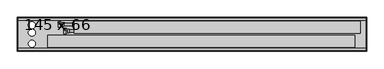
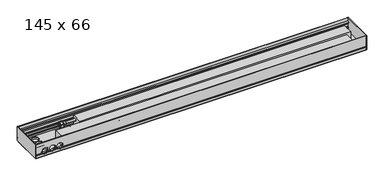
"""IFC4 building model written with IfcOpenShell, lengths in millimetres: proxy geometry, Mohlenhof_Внутрипольный конвектор_QSKM : 145 x 66."""

from ifc_helpers import new_model, si_unit, point, frame, frame_2d, origin, place, context, project, spatial, polyline, circle_curve, ellipse_curve, trimmed, segment, composite_curve, outline, extrude, source, transform, mapped, element, save
from ifc_brep_helpers import plane_surface, cylinder_surface, revolved_surface, advanced_brep


def proxy_145_x_66_164ab2c3(model_context):
    return source(origin(), model_context, "Body", "SolidModel", [
        extrude(outline(composite_curve([segment(trimmed(circle_curve(frame_2d((0.0, -223.5)), 4.5), [point((-4.5, -223.5))], [point((4.5, -223.5))], False, "CARTESIAN"), True, "CONTINUOUS"), segment(trimmed(circle_curve(frame_2d((0.0, -223.5)), 4.5), [point((4.5, -223.5))], [point((-4.5, -223.5))], False, "CARTESIAN"), True, "CONTINUOUS")], self_intersect=False)), frame((0.0, 0.0, -79.0), z_axis=(0.0, 0.0, 1.0), x_axis=(1.0, 0.0, 0.0)), (0.0, 0.0, 1.0), 7.0),
        extrude(outline(composite_curve([segment(trimmed(circle_curve(frame_2d((0.0, -223.5)), 4.0), [point((-4.0, -223.5))], [point((4.0, -223.5))], False, "CARTESIAN"), True, "CONTINUOUS"), segment(trimmed(circle_curve(frame_2d((0.0, -223.5)), 4.0), [point((4.0, -223.5))], [point((-4.0, -223.5))], False, "CARTESIAN"), True, "CONTINUOUS")], self_intersect=False)), frame((0.0, 0.0, -72.0), z_axis=(0.0, 0.0, 1.0), x_axis=(1.0, 0.0, 0.0)), (0.0, 0.0, 1.0), 1.5),
        extrude(outline(composite_curve([segment(trimmed(circle_curve(frame_2d((0.0, -121.5)), 4.5), [point((-4.5, -121.5))], [point((4.5, -121.5))], False, "CARTESIAN"), True, "CONTINUOUS"), segment(trimmed(circle_curve(frame_2d((0.0, -121.5)), 4.5), [point((4.5, -121.5))], [point((-4.5, -121.5))], False, "CARTESIAN"), True, "CONTINUOUS")], self_intersect=False)), frame((0.0, 0.0, -79.0), z_axis=(0.0, 0.0, 1.0), x_axis=(1.0, 0.0, 0.0)), (0.0, 0.0, 1.0), 7.0),
        extrude(outline(composite_curve([segment(trimmed(circle_curve(frame_2d((0.0, -121.5)), 4.0), [point((-4.0, -121.5))], [point((4.0, -121.5))], False, "CARTESIAN"), True, "CONTINUOUS"), segment(trimmed(circle_curve(frame_2d((0.0, -121.5)), 4.0), [point((4.0, -121.5))], [point((-4.0, -121.5))], False, "CARTESIAN"), True, "CONTINUOUS")], self_intersect=False)), frame((0.0, 0.0, -72.0), z_axis=(0.0, 0.0, 1.0), x_axis=(1.0, 0.0, 0.0)), (0.0, 0.0, 1.0), 1.5),
        advanced_brep(
        [(-540.0, -158.0, -47.5), (-540.0, -146.0, -47.5), (-540.0, -170.0, -47.5), (-527.5, -165.5, -47.5), (-527.5, -150.5, -47.5), (-527.5, -158.0, -47.5), (-535.0, -165.5, -47.5), (-535.0, -150.5, -47.5)],
        [
            (0, 1),
            (1, 2, circle_curve(frame((-540.0, -158.0, -47.5), z_axis=(-1.0, 0.0, 0.0), x_axis=(0.0, 1.0, 0.0)), 12.0)),
            (2, 0),
            (2, 1, circle_curve(frame((-540.0, -158.0, -47.5), z_axis=(-1.0, 0.0, 0.0), x_axis=(0.0, 1.0, 0.0)), 12.0)),
            (3, 4, circle_curve(frame((-527.5, -158.0, -47.5), z_axis=(1.0, 0.0, 0.0), x_axis=(0.0, 1.0, 0.0)), 7.5)),
            (4, 5),
            (5, 3),
            (4, 3, circle_curve(frame((-527.5, -158.0, -47.5), z_axis=(1.0, 0.0, 0.0), x_axis=(0.0, 1.0, 0.0)), 7.5)),
            (6, 7, circle_curve(frame((-535.0, -158.0, -47.5), z_axis=(1.0, 0.0, 0.0), x_axis=(0.0, 1.0, 0.0)), 7.5)),
            (7, 4),
            (3, 6),
            (7, 6, circle_curve(frame((-535.0, -158.0, -47.5), z_axis=(1.0, 0.0, 0.0), x_axis=(0.0, 1.0, 0.0)), 7.5)),
            (1, 7),
            (6, 2),
        ],
        [
            plane_surface(frame((-540.0, -158.0, -47.5), z_axis=(-1.0, 0.0, 0.0), x_axis=(0.0, 1.0, 0.0))),
            plane_surface(frame((-527.5, -158.0, -47.5), z_axis=(1.0, 0.0, 0.0), x_axis=(0.0, 1.0, 0.0))),
            cylinder_surface(frame((-540.0, -158.0, -47.5), z_axis=(-1.0, 0.0, 0.0), x_axis=(0.0, 1.0, 0.0)), 7.5),
            revolved_surface(polyline([(-535.0, -150.5, -47.5), (-540.0, -146.0, -47.5)]), (-540.0, -158.0, -47.5), (-1.0, 0.0, 0.0)),
        ],
        [
            (0, [[1, 2, 3]]),
            (0, [[-3, 4, -1]]),
            (1, [[5, 6, 7]]),
            (1, [[8, -7, -6]]),
            (2, [[9, 10, -5, 11]]),
            (2, [[12, -11, -8, -10]]),
            (3, [[-2, 13, -9, 14]]),
            (3, [[-4, -14, -12, -13]]),
        ],
    ),
        extrude(outline(polyline([(-158.0, -33.6435935), (-146.0, -40.5717968), (-146.0, -54.4282032), (-158.0, -61.3564065), (-170.0, -54.4282032), (-170.0, -40.5717968), (-158.0, -33.6435935)]), holes=[composite_curve([segment(trimmed(circle_curve(frame_2d((-158.0, -47.5)), 8.5), [point((-149.5, -47.5))], [point((-166.5, -47.5))], True, "CARTESIAN"), True, "CONTINUOUS"), segment(trimmed(circle_curve(frame_2d((-158.0, -47.5)), 8.5), [point((-166.5, -47.5))], [point((-149.5, -47.5))], True, "CARTESIAN"), True, "CONTINUOUS")], self_intersect=False)]), frame((-551.0, 0.0, 0.0), z_axis=(1.0, 0.0, 0.0), x_axis=(0.0, 1.0, 0.0)), (0.0, 0.0, 1.0), 11.0),
        advanced_brep(
        [(-564.0, -130.0, -34.5), (-564.0, -118.0, -34.5), (-564.0, -142.0, -34.5), (-551.5, -137.5, -34.5), (-551.5, -122.5, -34.5), (-551.5, -130.0, -34.5), (-559.0, -137.5, -34.5), (-559.0, -122.5, -34.5)],
        [
            (0, 1),
            (1, 2, circle_curve(frame((-564.0, -130.0, -34.5), z_axis=(-1.0, 0.0, 0.0), x_axis=(0.0, 1.0, 0.0)), 12.0)),
            (2, 0),
            (2, 1, circle_curve(frame((-564.0, -130.0, -34.5), z_axis=(-1.0, 0.0, 0.0), x_axis=(0.0, 1.0, 0.0)), 12.0)),
            (3, 4, circle_curve(frame((-551.5, -130.0, -34.5), z_axis=(1.0, 0.0, 0.0), x_axis=(0.0, 1.0, 0.0)), 7.5)),
            (4, 5),
            (5, 3),
            (4, 3, circle_curve(frame((-551.5, -130.0, -34.5), z_axis=(1.0, 0.0, 0.0), x_axis=(0.0, 1.0, 0.0)), 7.5)),
            (6, 7, circle_curve(frame((-559.0, -130.0, -34.5), z_axis=(1.0, 0.0, 0.0), x_axis=(0.0, 1.0, 0.0)), 7.5)),
            (7, 4),
            (3, 6),
            (7, 6, circle_curve(frame((-559.0, -130.0, -34.5), z_axis=(1.0, 0.0, 0.0), x_axis=(0.0, 1.0, 0.0)), 7.5)),
            (1, 7),
            (6, 2),
        ],
        [
            plane_surface(frame((-564.0, -130.0, -34.5), z_axis=(-1.0, 0.0, 0.0), x_axis=(0.0, 1.0, 0.0))),
            plane_surface(frame((-551.5, -130.0, -34.5), z_axis=(1.0, 0.0, 0.0), x_axis=(0.0, 1.0, 0.0))),
            cylinder_surface(frame((-564.0, -130.0, -34.5), z_axis=(-1.0, 0.0, 0.0), x_axis=(0.0, 1.0, 0.0)), 7.5),
            revolved_surface(polyline([(-559.0, -122.5, -34.5), (-564.0, -118.0, -34.5)]), (-564.0, -130.0, -34.5), (-1.0, 0.0, 0.0)),
        ],
        [
            (0, [[1, 2, 3]]),
            (0, [[-3, 4, -1]]),
            (1, [[5, 6, 7]]),
            (1, [[8, -7, -6]]),
            (2, [[9, 10, -5, 11]]),
            (2, [[12, -11, -8, -10]]),
            (3, [[-2, 13, -9, 14]]),
            (3, [[-4, -14, -12, -13]]),
        ],
    ),
        extrude(outline(polyline([(-130.0, -20.6435935), (-118.0, -27.5717968), (-118.0, -41.4282032), (-130.0, -48.3564065), (-142.0, -41.4282032), (-142.0, -27.5717968), (-130.0, -20.6435935)]), holes=[composite_curve([segment(trimmed(circle_curve(frame_2d((-130.0, -34.5)), 8.5), [point((-121.5, -34.5))], [point((-138.5, -34.5))], True, "CARTESIAN"), True, "CONTINUOUS"), segment(trimmed(circle_curve(frame_2d((-130.0, -34.5)), 8.5), [point((-138.5, -34.5))], [point((-121.5, -34.5))], True, "CARTESIAN"), True, "CONTINUOUS")], self_intersect=False)]), frame((-575.0, 0.0, 0.0), z_axis=(1.0, 0.0, 0.0), x_axis=(0.0, 1.0, 0.0)), (0.0, 0.0, 1.0), 11.0),
        extrude(outline(composite_curve([segment(trimmed(circle_curve(frame_2d((-725.0, -223.5)), 4.5), [point((-729.5, -223.5))], [point((-720.5, -223.5))], False, "CARTESIAN"), True, "CONTINUOUS"), segment(trimmed(circle_curve(frame_2d((-725.0, -223.5)), 4.5), [point((-720.5, -223.5))], [point((-729.5, -223.5))], False, "CARTESIAN"), True, "CONTINUOUS")], self_intersect=False)), frame((0.0, 0.0, -79.0), z_axis=(0.0, 0.0, 1.0), x_axis=(1.0, 0.0, 0.0)), (0.0, 0.0, 1.0), 7.0),
        extrude(outline(composite_curve([segment(trimmed(circle_curve(frame_2d((-725.0, -223.5)), 4.0), [point((-729.0, -223.5))], [point((-721.0, -223.5))], False, "CARTESIAN"), True, "CONTINUOUS"), segment(trimmed(circle_curve(frame_2d((-725.0, -223.5)), 4.0), [point((-721.0, -223.5))], [point((-729.0, -223.5))], False, "CARTESIAN"), True, "CONTINUOUS")], self_intersect=False)), frame((0.0, 0.0, -72.0), z_axis=(0.0, 0.0, 1.0), x_axis=(1.0, 0.0, 0.0)), (0.0, 0.0, 1.0), 1.5),
        extrude(outline(composite_curve([segment(trimmed(circle_curve(frame_2d((-725.0, -121.5)), 4.5), [point((-729.5, -121.5))], [point((-720.5, -121.5))], False, "CARTESIAN"), True, "CONTINUOUS"), segment(trimmed(circle_curve(frame_2d((-725.0, -121.5)), 4.5), [point((-720.5, -121.5))], [point((-729.5, -121.5))], False, "CARTESIAN"), True, "CONTINUOUS")], self_intersect=False)), frame((0.0, 0.0, -79.0), z_axis=(0.0, 0.0, 1.0), x_axis=(1.0, 0.0, 0.0)), (0.0, 0.0, 1.0), 7.0),
        extrude(outline(composite_curve([segment(trimmed(circle_curve(frame_2d((-725.0, -121.5)), 4.0), [point((-729.0, -121.5))], [point((-721.0, -121.5))], False, "CARTESIAN"), True, "CONTINUOUS"), segment(trimmed(circle_curve(frame_2d((-725.0, -121.5)), 4.0), [point((-721.0, -121.5))], [point((-729.0, -121.5))], False, "CARTESIAN"), True, "CONTINUOUS")], self_intersect=False)), frame((0.0, 0.0, -72.0), z_axis=(0.0, 0.0, 1.0), x_axis=(1.0, 0.0, 0.0)), (0.0, 0.0, 1.0), 1.5),
        extrude(outline(composite_curve([segment(trimmed(circle_curve(frame_2d((725.0, -223.5)), 4.5), [point((720.5, -223.5))], [point((729.5, -223.5))], False, "CARTESIAN"), True, "CONTINUOUS"), segment(trimmed(circle_curve(frame_2d((725.0, -223.5)), 4.5), [point((729.5, -223.5))], [point((720.5, -223.5))], False, "CARTESIAN"), True, "CONTINUOUS")], self_intersect=False)), frame((0.0, 0.0, -79.0), z_axis=(0.0, 0.0, 1.0), x_axis=(1.0, 0.0, 0.0)), (0.0, 0.0, 1.0), 7.0),
        extrude(outline(composite_curve([segment(trimmed(circle_curve(frame_2d((725.0, -223.5)), 4.0), [point((721.0, -223.5))], [point((729.0, -223.5))], False, "CARTESIAN"), True, "CONTINUOUS"), segment(trimmed(circle_curve(frame_2d((725.0, -223.5)), 4.0), [point((729.0, -223.5))], [point((721.0, -223.5))], False, "CARTESIAN"), True, "CONTINUOUS")], self_intersect=False)), frame((0.0, 0.0, -72.0), z_axis=(0.0, 0.0, 1.0), x_axis=(1.0, 0.0, 0.0)), (0.0, 0.0, 1.0), 1.5),
        extrude(outline(composite_curve([segment(trimmed(circle_curve(frame_2d((725.0, -121.5)), 4.5), [point((720.5, -121.5))], [point((729.5, -121.5))], False, "CARTESIAN"), True, "CONTINUOUS"), segment(trimmed(circle_curve(frame_2d((725.0, -121.5)), 4.5), [point((729.5, -121.5))], [point((720.5, -121.5))], False, "CARTESIAN"), True, "CONTINUOUS")], self_intersect=False)), frame((0.0, 0.0, -79.0), z_axis=(0.0, 0.0, 1.0), x_axis=(1.0, 0.0, 0.0)), (0.0, 0.0, 1.0), 7.0),
        extrude(outline(composite_curve([segment(trimmed(circle_curve(frame_2d((725.0, -121.5)), 4.0), [point((721.0, -121.5))], [point((729.0, -121.5))], False, "CARTESIAN"), True, "CONTINUOUS"), segment(trimmed(circle_curve(frame_2d((725.0, -121.5)), 4.0), [point((729.0, -121.5))], [point((721.0, -121.5))], False, "CARTESIAN"), True, "CONTINUOUS")], self_intersect=False)), frame((0.0, 0.0, -72.0), z_axis=(0.0, 0.0, 1.0), x_axis=(1.0, 0.0, 0.0)), (0.0, 0.0, 1.0), 1.5),
        extrude(outline(polyline([(700.0, -175.87), (700.0, -227.18), (-620.0, -227.18), (-620.0, -175.87), (700.0, -175.87)])), frame((0.0, 0.0, -62.5), z_axis=(0.0, 0.0, 1.0), x_axis=(1.0, 0.0, 0.0)), (0.0, 0.0, 1.0), 43.62),
        extrude(outline(composite_curve([segment(trimmed(circle_curve(frame_2d((-158.0, -47.5)), 5.0), [point((-163.0, -47.5))], [point((-153.0, -47.5))], False, "CARTESIAN"), True, "CONTINUOUS"), segment(trimmed(circle_curve(frame_2d((-158.0, -47.5)), 5.0), [point((-153.0, -47.5))], [point((-163.0, -47.5))], False, "CARTESIAN"), True, "CONTINUOUS")], self_intersect=False)), frame((-551.0, 0.0, 0.0), z_axis=(1.0, 0.0, 0.0), x_axis=(0.0, 1.0, 0.0)), (0.0, 0.0, 1.0), 46.0),
        extrude(outline(composite_curve([segment(trimmed(circle_curve(frame_2d((-130.0, -34.5)), 5.0), [point((-135.0, -34.5))], [point((-125.0, -34.5))], False, "CARTESIAN"), True, "CONTINUOUS"), segment(trimmed(circle_curve(frame_2d((-130.0, -34.5)), 5.0), [point((-125.0, -34.5))], [point((-135.0, -34.5))], False, "CARTESIAN"), True, "CONTINUOUS")], self_intersect=False)), frame((-575.0, 0.0, 0.0), z_axis=(1.0, 0.0, 0.0), x_axis=(0.0, 1.0, 0.0)), (0.0, 0.0, 1.0), 70.0),
        advanced_brep(
        [(748.0, -245.0, -48.5473602), (748.0, -243.5, -49.2468216), (748.0, -242.5, -49.2468216), (748.0, -242.5, -46.0008038), (748.0, -240.0, -46.0008038), (748.0, -240.0, -56.5008038), (748.0, -242.5, -56.5008038), (748.0, -242.5, -53.2468216), (748.0, -243.5, -53.2468216), (748.0, -245.0, -53.9462831), (748.0, -245.0, -66.5), (748.0, -241.0, -66.5), (748.0, -241.0, -65.2), (748.0, -243.0, -65.2), (748.0, -243.0, -62.5), (748.0, -232.0, -62.5), (748.0, -232.0, -54.9172677), (748.0, -233.4172677, -53.5), (748.0, -237.0, -53.5), (748.0, -237.0, -45.91), (748.0, -239.0, -43.91), (748.0, -239.0, -39.5), (748.0, -240.0, -39.5), (748.0, -240.0, -43.5), (748.0, -242.4956439, -43.5), (748.0, -242.4956439, -23.0), (748.0, -240.0, -23.0), (748.0, -240.0, -27.0), (748.0, -239.0, -27.0), (748.0, -239.0, -17.0), (748.0, -233.3956439, -17.0), (748.0, -233.3956439, -15.0), (748.0, -243.4, -15.0), (748.0, -243.4, 0.0), (748.0, -245.0, 0.0), (-748.0, -245.0, -48.5473602), (-748.0, -245.0, 0.0), (-748.0, -243.4, 0.0), (-748.0, -243.4, -15.0), (-748.0, -233.3956439, -15.0), (-748.0, -233.3956439, -17.0), (-748.0, -239.0, -17.0), (-748.0, -239.0, -27.0), (-748.0, -240.0, -27.0), (-748.0, -240.0, -23.0), (-748.0, -242.4956439, -23.0), (-748.0, -242.4956439, -43.5), (-748.0, -240.0, -43.5), (-748.0, -240.0, -39.5), (-748.0, -239.0, -39.5), (-748.0, -239.0, -43.91), (-748.0, -237.0, -45.91), (-748.0, -237.0, -53.5), (-748.0, -233.4172677, -53.5), (-748.0, -232.0, -54.9172677), (-748.0, -232.0, -62.5), (-748.0, -243.0, -62.5), (-748.0, -243.0, -65.2), (-748.0, -241.0, -65.2), (-748.0, -241.0, -66.5), (-748.0, -245.0, -66.5), (-748.0, -245.0, -53.9462831), (-748.0, -243.5, -53.2468216), (-748.0, -242.5, -53.2468216), (-748.0, -242.5, -56.5008038), (-748.0, -240.0, -56.5008038), (-748.0, -240.0, -46.0008038), (-748.0, -242.5, -46.0008038), (-748.0, -242.5, -49.2468216), (-748.0, -243.5, -49.2468216), (-628.7585985, -245.0, -48.5473602), (-629.155283, -243.5, -49.2468216), (-720.844717, -243.5, -49.2468216), (-721.2414015, -245.0, -48.5473602), (-688.2414015, -245.0, -48.5473602), (-694.7585985, -245.0, -48.5473602), (-695.155283, -243.5, -49.2468216), (-687.844717, -243.5, -49.2468216), (-655.2414015, -245.0, -48.5473602), (-661.7585985, -245.0, -48.5473602), (-662.155283, -243.5, -49.2468216), (-654.844717, -243.5, -49.2468216), (-629.155283, -242.5, -49.2468216), (-720.844717, -242.5, -49.2468216), (-695.155283, -242.5, -49.2468216), (-687.844717, -242.5, -49.2468216), (-662.155283, -242.5, -49.2468216), (-654.844717, -242.5, -49.2468216), (-627.6911648, -242.5, -46.0008038), (-722.3088352, -242.5, -46.0008038), (-693.6911648, -242.5, -46.0008038), (-689.3088352, -242.5, -46.0008038), (-660.6911648, -242.5, -46.0008038), (-656.3088352, -242.5, -46.0008038), (-627.6911648, -240.0, -46.0008038), (-722.3088352, -240.0, -46.0008038), (-693.6911648, -240.0, -46.0008038), (-689.3088352, -240.0, -46.0008038), (-660.6911648, -240.0, -46.0008038), (-656.3088352, -240.0, -46.0008038), (-717.328032, -242.5, -53.2468216), (-698.671968, -242.5, -53.2468216), (-684.328032, -242.5, -53.2468216), (-665.671968, -242.5, -53.2468216), (-651.328032, -242.5, -53.2468216), (-632.671968, -242.5, -53.2468216), (-632.671968, -243.5, -53.2468216), (-717.328032, -243.5, -53.2468216), (-698.671968, -243.5, -53.2468216), (-684.328032, -243.5, -53.2468216), (-665.671968, -243.5, -53.2468216), (-651.328032, -243.5, -53.2468216), (-633.6280208, -245.0, -53.9462831), (-716.3719792, -245.0, -53.9462831), (-699.6280208, -245.0, -53.9462831), (-683.3719792, -245.0, -53.9462831), (-666.6280208, -245.0, -53.9462831), (-650.3719792, -245.0, -53.9462831), (-714.7064841, -232.0, -54.9172677), (-701.2935159, -232.0, -54.9172677), (-681.7064841, -232.0, -54.9172677), (-668.2935159, -232.0, -54.9172677), (-648.7064841, -232.0, -54.9172677), (-635.2935159, -232.0, -54.9172677), (-633.0, -233.4172677, -53.5), (-717.0, -233.4172677, -53.5), (-699.0, -233.4172677, -53.5), (-684.0, -233.4172677, -53.5), (-666.0, -233.4172677, -53.5), (-651.0, -233.4172677, -53.5), (-633.0, -237.0, -53.5), (-717.0, -237.0, -53.5), (-699.0, -237.0, -53.5), (-684.0, -237.0, -53.5), (-666.0, -237.0, -53.5), (-651.0, -237.0, -53.5), (-627.6629187, -237.0, -45.91), (-722.3370813, -237.0, -45.91), (-693.6629187, -237.0, -45.91), (-689.3370813, -237.0, -45.91), (-660.6629187, -237.0, -45.91), (-656.3370813, -237.0, -45.91), (-627.1948691, -239.0, -43.91), (-722.8051309, -239.0, -43.91), (-693.1948691, -239.0, -43.91), (-689.8051309, -239.0, -43.91), (-660.1948691, -239.0, -43.91), (-656.8051309, -239.0, -43.91), (-627.0, -239.0, -41.5), (-627.1339313, -239.0, -39.5), (-722.8660687, -239.0, -39.5), (-723.0, -239.0, -41.5), (-693.0, -239.0, -41.5), (-693.1339313, -239.0, -39.5), (-689.8660687, -239.0, -39.5), (-690.0, -239.0, -41.5), (-660.0, -239.0, -41.5), (-660.1339313, -239.0, -39.5), (-656.8660687, -239.0, -39.5), (-657.0, -239.0, -41.5), (-627.1339313, -240.0, -39.5), (-722.8660687, -240.0, -39.5), (-693.1339313, -240.0, -39.5), (-689.8660687, -240.0, -39.5), (-660.1339313, -240.0, -39.5), (-656.8660687, -240.0, -39.5), (-627.0, -240.0, -41.5), (-627.1339313, -240.0, -43.5), (-722.8660687, -240.0, -43.5), (-723.0, -240.0, -41.5), (-693.0, -240.0, -41.5), (-693.1339313, -240.0, -43.5), (-689.8660687, -240.0, -43.5), (-690.0, -240.0, -41.5), (-660.0, -240.0, -41.5), (-660.1339313, -240.0, -43.5), (-656.8660687, -240.0, -43.5), (-657.0, -240.0, -41.5), (-627.1339313, -242.4956439, -43.5), (-722.8660687, -242.4956439, -43.5), (-693.1339313, -242.4956439, -43.5), (-689.8660687, -242.4956439, -43.5), (-660.1339313, -242.4956439, -43.5), (-656.8660687, -242.4956439, -43.5), (-627.0, -242.4956439, -41.5), (-657.0, -242.4956439, -41.5), (-660.0, -242.4956439, -41.5), (-690.0, -242.4956439, -41.5), (-693.0, -242.4956439, -41.5), (-723.0, -242.4956439, -41.5), (-711.8405729, -240.0, -27.0), (-704.1594271, -240.0, -27.0), (-678.8405729, -240.0, -27.0), (-671.1594271, -240.0, -27.0), (-645.8405729, -240.0, -27.0), (-638.1594271, -240.0, -27.0), (-638.1594271, -239.0, -27.0), (-711.8405729, -239.0, -27.0), (-704.1594271, -239.0, -27.0), (-678.8405729, -239.0, -27.0), (-671.1594271, -239.0, -27.0), (-645.8405729, -239.0, -27.0), (-723.0, -245.0, -41.5), (-693.0, -245.0, -41.5), (-690.0, -245.0, -41.5), (-660.0, -245.0, -41.5), (-657.0, -245.0, -41.5), (-627.0, -245.0, -41.5)],
        [
            (0, 1),
            (1, 2),
            (2, 3),
            (3, 4),
            (4, 5),
            (5, 6),
            (6, 7),
            (7, 8),
            (8, 9),
            (9, 10),
            (10, 11),
            (11, 12),
            (12, 13),
            (13, 14),
            (14, 15),
            (15, 16),
            (16, 17),
            (17, 18),
            (18, 19),
            (19, 20),
            (20, 21),
            (21, 22),
            (22, 23),
            (23, 24),
            (24, 25),
            (25, 26),
            (26, 27),
            (27, 28),
            (28, 29),
            (29, 30),
            (30, 31),
            (31, 32),
            (32, 33),
            (33, 34),
            (34, 0),
            (35, 36),
            (36, 37),
            (37, 38),
            (38, 39),
            (39, 40),
            (40, 41),
            (41, 42),
            (42, 43),
            (43, 44),
            (44, 45),
            (45, 46),
            (46, 47),
            (47, 48),
            (48, 49),
            (49, 50),
            (50, 51),
            (51, 52),
            (52, 53),
            (53, 54),
            (54, 55),
            (55, 56),
            (56, 57),
            (57, 58),
            (58, 59),
            (59, 60),
            (60, 61),
            (61, 62),
            (62, 63),
            (63, 64),
            (64, 65),
            (65, 66),
            (66, 67),
            (67, 68),
            (68, 69),
            (69, 35),
            (0, 70),
            (70, 71, ellipse_curve(frame((-642.0, -260.1131126, -41.5), z_axis=(0.0, 0.42261826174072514, 0.9063077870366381), x_axis=(0.0, -0.9063077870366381, 0.42261826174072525)), 35.4930237, 15.0)),
            (71, 1),
            (69, 72),
            (72, 73, ellipse_curve(frame((-708.0, -260.1131126, -41.5), z_axis=(0.0, 0.42261826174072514, 0.9063077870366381), x_axis=(0.0, -0.9063077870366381, 0.42261826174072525)), 35.4930237, 15.0)),
            (73, 35),
            (74, 75),
            (75, 76, ellipse_curve(frame((-708.0, -260.1131126, -41.5), z_axis=(0.0, 0.42261826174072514, 0.9063077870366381), x_axis=(0.0, -0.9063077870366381, 0.42261826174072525)), 35.4930237, 15.0)),
            (76, 77),
            (77, 74, ellipse_curve(frame((-675.0, -260.1131126, -41.5), z_axis=(0.0, 0.42261826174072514, 0.9063077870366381), x_axis=(0.0, -0.9063077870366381, 0.42261826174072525)), 35.4930237, 15.0)),
            (78, 79),
            (79, 80, ellipse_curve(frame((-675.0, -260.1131126, -41.5), z_axis=(0.0, 0.42261826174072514, 0.9063077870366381), x_axis=(0.0, -0.9063077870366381, 0.42261826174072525)), 35.4930237, 15.0)),
            (80, 81),
            (81, 78, ellipse_curve(frame((-642.0, -260.1131126, -41.5), z_axis=(0.0, 0.42261826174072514, 0.9063077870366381), x_axis=(0.0, -0.9063077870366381, 0.42261826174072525)), 35.4930237, 15.0)),
            (71, 82),
            (82, 2),
            (68, 83),
            (83, 72),
            (76, 84),
            (84, 85),
            (85, 77),
            (80, 86),
            (86, 87),
            (87, 81),
            (82, 88, circle_curve(frame((-642.0, -242.5, -41.5), z_axis=(0.0, -1.0, 0.0), x_axis=(1.0, 0.0, 0.0)), 15.0)),
            (88, 3),
            (67, 89),
            (89, 83, circle_curve(frame((-708.0, -242.5, -41.5), z_axis=(0.0, -1.0, 0.0), x_axis=(1.0, 0.0, 0.0)), 15.0)),
            (84, 90, circle_curve(frame((-708.0, -242.5, -41.5), z_axis=(0.0, -1.0, 0.0), x_axis=(1.0, 0.0, 0.0)), 15.0)),
            (90, 91),
            (91, 85, circle_curve(frame((-675.0, -242.5, -41.5), z_axis=(0.0, -1.0, 0.0), x_axis=(1.0, 0.0, 0.0)), 15.0)),
            (86, 92, circle_curve(frame((-675.0, -242.5, -41.5), z_axis=(0.0, -1.0, 0.0), x_axis=(1.0, 0.0, 0.0)), 15.0)),
            (92, 93),
            (93, 87, circle_curve(frame((-642.0, -242.5, -41.5), z_axis=(0.0, -1.0, 0.0), x_axis=(1.0, 0.0, 0.0)), 15.0)),
            (88, 94),
            (94, 4),
            (66, 95),
            (95, 89),
            (90, 96),
            (96, 97),
            (97, 91),
            (92, 98),
            (98, 99),
            (99, 93),
            (94, 99, circle_curve(frame((-642.0, -240.0, -41.5), z_axis=(0.0, 1.0, 0.0), x_axis=(1.0, 0.0, 0.0)), 15.0)),
            (98, 97, circle_curve(frame((-675.0, -240.0, -41.5), z_axis=(0.0, 1.0, 0.0), x_axis=(1.0, 0.0, 0.0)), 15.0)),
            (96, 95, circle_curve(frame((-708.0, -240.0, -41.5), z_axis=(0.0, 1.0, 0.0), x_axis=(1.0, 0.0, 0.0)), 15.0)),
            (65, 5),
            (64, 6),
            (63, 100),
            (100, 101, circle_curve(frame((-708.0, -242.5, -41.5), z_axis=(0.0, -1.0, 0.0), x_axis=(1.0, 0.0, 0.0)), 15.0)),
            (101, 102),
            (102, 103, circle_curve(frame((-675.0, -242.5, -41.5), z_axis=(0.0, -1.0, 0.0), x_axis=(1.0, 0.0, 0.0)), 15.0)),
            (103, 104),
            (104, 105, circle_curve(frame((-642.0, -242.5, -41.5), z_axis=(0.0, -1.0, 0.0), x_axis=(1.0, 0.0, 0.0)), 15.0)),
            (105, 7),
            (105, 106),
            (106, 8),
            (62, 107),
            (107, 100),
            (101, 108),
            (108, 109),
            (109, 102),
            (103, 110),
            (110, 111),
            (111, 104),
            (106, 112, ellipse_curve(frame((-642.0, -218.3088597, -41.5), z_axis=(0.0, 0.42261826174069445, -0.9063077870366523), x_axis=(0.0, -0.9063077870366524, -0.42261826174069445)), 35.4930237, 15.0)),
            (112, 9),
            (61, 113),
            (113, 107, ellipse_curve(frame((-708.0, -218.3088597, -41.5), z_axis=(0.0, 0.42261826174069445, -0.9063077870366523), x_axis=(0.0, -0.9063077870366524, -0.42261826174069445)), 35.4930237, 15.0)),
            (108, 114, ellipse_curve(frame((-708.0, -218.3088597, -41.5), z_axis=(0.0, 0.42261826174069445, -0.9063077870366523), x_axis=(0.0, -0.9063077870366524, -0.42261826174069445)), 35.4930237, 15.0)),
            (114, 115),
            (115, 109, ellipse_curve(frame((-675.0, -218.3088597, -41.5), z_axis=(0.0, 0.42261826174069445, -0.9063077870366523), x_axis=(0.0, -0.9063077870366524, -0.42261826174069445)), 35.4930237, 15.0)),
            (110, 116, ellipse_curve(frame((-675.0, -218.3088597, -41.5), z_axis=(0.0, 0.42261826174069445, -0.9063077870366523), x_axis=(0.0, -0.9063077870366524, -0.42261826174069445)), 35.4930237, 15.0)),
            (116, 117),
            (117, 111, ellipse_curve(frame((-642.0, -218.3088597, -41.5), z_axis=(0.0, 0.42261826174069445, -0.9063077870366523), x_axis=(0.0, -0.9063077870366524, -0.42261826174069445)), 35.4930237, 15.0)),
            (112, 117, circle_curve(frame((-642.0, -245.0, -41.5), z_axis=(0.0, 1.0, 0.0), x_axis=(1.0, 0.0, 0.0)), 15.0)),
            (116, 115, circle_curve(frame((-675.0, -245.0, -41.5), z_axis=(0.0, 1.0, 0.0), x_axis=(1.0, 0.0, 0.0)), 15.0)),
            (114, 113, circle_curve(frame((-708.0, -245.0, -41.5), z_axis=(0.0, 1.0, 0.0), x_axis=(1.0, 0.0, 0.0)), 15.0)),
            (60, 10),
            (59, 11),
            (58, 12),
            (57, 13),
            (56, 14),
            (55, 15),
            (54, 118),
            (118, 119, circle_curve(frame((-708.0, -232.0, -41.5), z_axis=(0.0, -1.0, 0.0), x_axis=(1.0, 0.0, 0.0)), 15.0)),
            (119, 120),
            (120, 121, circle_curve(frame((-675.0, -232.0, -41.5), z_axis=(0.0, -1.0, 0.0), x_axis=(1.0, 0.0, 0.0)), 15.0)),
            (121, 122),
            (122, 123, circle_curve(frame((-642.0, -232.0, -41.5), z_axis=(0.0, -1.0, 0.0), x_axis=(1.0, 0.0, 0.0)), 15.0)),
            (123, 16),
            (123, 124, ellipse_curve(frame((-642.0, -245.4172677, -41.5), z_axis=(0.0, -0.7071067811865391, -0.707106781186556), x_axis=(0.0, -0.7071067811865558, 0.7071067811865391)), 21.2132034, 15.0)),
            (124, 17),
            (53, 125),
            (125, 118, ellipse_curve(frame((-708.0, -245.4172677, -41.5), z_axis=(0.0, -0.7071067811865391, -0.707106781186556), x_axis=(0.0, -0.7071067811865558, 0.7071067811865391)), 21.2132034, 15.0)),
            (119, 126, ellipse_curve(frame((-708.0, -245.4172677, -41.5), z_axis=(0.0, -0.7071067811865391, -0.707106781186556), x_axis=(0.0, -0.7071067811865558, 0.7071067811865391)), 21.2132034, 15.0)),
            (126, 127),
            (127, 120, ellipse_curve(frame((-675.0, -245.4172677, -41.5), z_axis=(0.0, -0.7071067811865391, -0.707106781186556), x_axis=(0.0, -0.7071067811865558, 0.7071067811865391)), 21.2132034, 15.0)),
            (121, 128, ellipse_curve(frame((-675.0, -245.4172677, -41.5), z_axis=(0.0, -0.7071067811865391, -0.707106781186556), x_axis=(0.0, -0.7071067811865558, 0.7071067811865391)), 21.2132034, 15.0)),
            (128, 129),
            (129, 122, ellipse_curve(frame((-642.0, -245.4172677, -41.5), z_axis=(0.0, -0.7071067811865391, -0.707106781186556), x_axis=(0.0, -0.7071067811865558, 0.7071067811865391)), 21.2132034, 15.0)),
            (124, 130),
            (130, 18),
            (52, 131),
            (131, 125),
            (126, 132),
            (132, 133),
            (133, 127),
            (128, 134),
            (134, 135),
            (135, 129),
            (130, 136, circle_curve(frame((-642.0, -237.0, -41.5), z_axis=(0.0, -1.0, 0.0), x_axis=(1.0, 0.0, 0.0)), 15.0)),
            (136, 19),
            (51, 137),
            (137, 131, circle_curve(frame((-708.0, -237.0, -41.5), z_axis=(0.0, -1.0, 0.0), x_axis=(1.0, 0.0, 0.0)), 15.0)),
            (132, 138, circle_curve(frame((-708.0, -237.0, -41.5), z_axis=(0.0, -1.0, 0.0), x_axis=(1.0, 0.0, 0.0)), 15.0)),
            (138, 139),
            (139, 133, circle_curve(frame((-675.0, -237.0, -41.5), z_axis=(0.0, -1.0, 0.0), x_axis=(1.0, 0.0, 0.0)), 15.0)),
            (134, 140, circle_curve(frame((-675.0, -237.0, -41.5), z_axis=(0.0, -1.0, 0.0), x_axis=(1.0, 0.0, 0.0)), 15.0)),
            (140, 141),
            (141, 135, circle_curve(frame((-642.0, -237.0, -41.5), z_axis=(0.0, -1.0, 0.0), x_axis=(1.0, 0.0, 0.0)), 15.0)),
            (136, 142, ellipse_curve(frame((-642.0, -241.41, -41.5), z_axis=(0.0, -0.7071067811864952, -0.7071067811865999), x_axis=(0.0, -0.7071067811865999, 0.7071067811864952)), 21.2132034, 15.0)),
            (142, 20),
            (50, 143),
            (143, 137, ellipse_curve(frame((-708.0, -241.41, -41.5), z_axis=(0.0, -0.7071067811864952, -0.7071067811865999), x_axis=(0.0, -0.7071067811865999, 0.7071067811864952)), 21.2132034, 15.0)),
            (138, 144, ellipse_curve(frame((-708.0, -241.41, -41.5), z_axis=(0.0, -0.7071067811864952, -0.7071067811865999), x_axis=(0.0, -0.7071067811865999, 0.7071067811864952)), 21.2132034, 15.0)),
            (144, 145),
            (145, 139, ellipse_curve(frame((-675.0, -241.41, -41.5), z_axis=(0.0, -0.7071067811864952, -0.7071067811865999), x_axis=(0.0, -0.7071067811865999, 0.7071067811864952)), 21.2132034, 15.0)),
            (140, 146, ellipse_curve(frame((-675.0, -241.41, -41.5), z_axis=(0.0, -0.7071067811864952, -0.7071067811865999), x_axis=(0.0, -0.7071067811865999, 0.7071067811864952)), 21.2132034, 15.0)),
            (146, 147),
            (147, 141, ellipse_curve(frame((-642.0, -241.41, -41.5), z_axis=(0.0, -0.7071067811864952, -0.7071067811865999), x_axis=(0.0, -0.7071067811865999, 0.7071067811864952)), 21.2132034, 15.0)),
            (142, 148, circle_curve(frame((-642.0, -239.0, -41.5), z_axis=(0.0, -1.0, 0.0), x_axis=(1.0, 0.0, 0.0)), 15.0)),
            (148, 149, circle_curve(frame((-642.0, -239.0, -41.5), z_axis=(0.0, -1.0, 0.0), x_axis=(1.0, 0.0, 0.0)), 15.0)),
            (149, 21),
            (49, 150),
            (150, 151, circle_curve(frame((-708.0, -239.0, -41.5), z_axis=(0.0, -1.0, 0.0), x_axis=(1.0, 0.0, 0.0)), 15.0)),
            (151, 143, circle_curve(frame((-708.0, -239.0, -41.5), z_axis=(0.0, -1.0, 0.0), x_axis=(1.0, 0.0, 0.0)), 15.0)),
            (144, 152, circle_curve(frame((-708.0, -239.0, -41.5), z_axis=(0.0, -1.0, 0.0), x_axis=(1.0, 0.0, 0.0)), 15.0)),
            (152, 153, circle_curve(frame((-708.0, -239.0, -41.5), z_axis=(0.0, -1.0, 0.0), x_axis=(1.0, 0.0, 0.0)), 15.0)),
            (153, 154),
            (154, 155, circle_curve(frame((-675.0, -239.0, -41.5), z_axis=(0.0, -1.0, 0.0), x_axis=(1.0, 0.0, 0.0)), 15.0)),
            (155, 145, circle_curve(frame((-675.0, -239.0, -41.5), z_axis=(0.0, -1.0, 0.0), x_axis=(1.0, 0.0, 0.0)), 15.0)),
            (146, 156, circle_curve(frame((-675.0, -239.0, -41.5), z_axis=(0.0, -1.0, 0.0), x_axis=(1.0, 0.0, 0.0)), 15.0)),
            (156, 157, circle_curve(frame((-675.0, -239.0, -41.5), z_axis=(0.0, -1.0, 0.0), x_axis=(1.0, 0.0, 0.0)), 15.0)),
            (157, 158),
            (158, 159, circle_curve(frame((-642.0, -239.0, -41.5), z_axis=(0.0, -1.0, 0.0), x_axis=(1.0, 0.0, 0.0)), 15.0)),
            (159, 147, circle_curve(frame((-642.0, -239.0, -41.5), z_axis=(0.0, -1.0, 0.0), x_axis=(1.0, 0.0, 0.0)), 15.0)),
            (149, 160),
            (160, 22),
            (48, 161),
            (161, 150),
            (153, 162),
            (162, 163),
            (163, 154),
            (157, 164),
            (164, 165),
            (165, 158),
            (160, 166, circle_curve(frame((-642.0, -240.0, -41.5), z_axis=(0.0, 1.0, 0.0), x_axis=(1.0, 0.0, 0.0)), 15.0)),
            (166, 167, circle_curve(frame((-642.0, -240.0, -41.5), z_axis=(0.0, 1.0, 0.0), x_axis=(1.0, 0.0, 0.0)), 15.0)),
            (167, 23),
            (47, 168),
            (168, 169, circle_curve(frame((-708.0, -240.0, -41.5), z_axis=(0.0, 1.0, 0.0), x_axis=(1.0, 0.0, 0.0)), 15.0)),
            (169, 161, circle_curve(frame((-708.0, -240.0, -41.5), z_axis=(0.0, 1.0, 0.0), x_axis=(1.0, 0.0, 0.0)), 15.0)),
            (162, 170, circle_curve(frame((-708.0, -240.0, -41.5), z_axis=(0.0, 1.0, 0.0), x_axis=(1.0, 0.0, 0.0)), 15.0)),
            (170, 171, circle_curve(frame((-708.0, -240.0, -41.5), z_axis=(0.0, 1.0, 0.0), x_axis=(1.0, 0.0, 0.0)), 15.0)),
            (171, 172),
            (172, 173, circle_curve(frame((-675.0, -240.0, -41.5), z_axis=(0.0, 1.0, 0.0), x_axis=(1.0, 0.0, 0.0)), 15.0)),
            (173, 163, circle_curve(frame((-675.0, -240.0, -41.5), z_axis=(0.0, 1.0, 0.0), x_axis=(1.0, 0.0, 0.0)), 15.0)),
            (164, 174, circle_curve(frame((-675.0, -240.0, -41.5), z_axis=(0.0, 1.0, 0.0), x_axis=(1.0, 0.0, 0.0)), 15.0)),
            (174, 175, circle_curve(frame((-675.0, -240.0, -41.5), z_axis=(0.0, 1.0, 0.0), x_axis=(1.0, 0.0, 0.0)), 15.0)),
            (175, 176),
            (176, 177, circle_curve(frame((-642.0, -240.0, -41.5), z_axis=(0.0, 1.0, 0.0), x_axis=(1.0, 0.0, 0.0)), 15.0)),
            (177, 165, circle_curve(frame((-642.0, -240.0, -41.5), z_axis=(0.0, 1.0, 0.0), x_axis=(1.0, 0.0, 0.0)), 15.0)),
            (167, 178),
            (178, 24),
            (46, 179),
            (179, 168),
            (171, 180),
            (180, 181),
            (181, 172),
            (175, 182),
            (182, 183),
            (183, 176),
            (178, 184, circle_curve(frame((-642.0, -242.4956439, -41.5), z_axis=(0.0, -1.0, 0.0), x_axis=(1.0, 0.0, 0.0)), 15.0)),
            (184, 185, circle_curve(frame((-642.0, -242.4956439, -41.5), z_axis=(0.0, -1.0, 0.0), x_axis=(1.0, 0.0, 0.0)), 15.0)),
            (185, 183, circle_curve(frame((-642.0, -242.4956439, -41.5), z_axis=(0.0, -1.0, 0.0), x_axis=(1.0, 0.0, 0.0)), 15.0)),
            (182, 186, circle_curve(frame((-675.0, -242.4956439, -41.5), z_axis=(0.0, -1.0, 0.0), x_axis=(1.0, 0.0, 0.0)), 15.0)),
            (186, 187, circle_curve(frame((-675.0, -242.4956439, -41.5), z_axis=(0.0, -1.0, 0.0), x_axis=(1.0, 0.0, 0.0)), 15.0)),
            (187, 181, circle_curve(frame((-675.0, -242.4956439, -41.5), z_axis=(0.0, -1.0, 0.0), x_axis=(1.0, 0.0, 0.0)), 15.0)),
            (180, 188, circle_curve(frame((-708.0, -242.4956439, -41.5), z_axis=(0.0, -1.0, 0.0), x_axis=(1.0, 0.0, 0.0)), 15.0)),
            (188, 189, circle_curve(frame((-708.0, -242.4956439, -41.5), z_axis=(0.0, -1.0, 0.0), x_axis=(1.0, 0.0, 0.0)), 15.0)),
            (189, 179, circle_curve(frame((-708.0, -242.4956439, -41.5), z_axis=(0.0, -1.0, 0.0), x_axis=(1.0, 0.0, 0.0)), 15.0)),
            (45, 25),
            (44, 26),
            (43, 190),
            (190, 191, circle_curve(frame((-708.0, -240.0, -41.5), z_axis=(0.0, 1.0, 0.0), x_axis=(1.0, 0.0, 0.0)), 15.0)),
            (191, 192),
            (192, 193, circle_curve(frame((-675.0, -240.0, -41.5), z_axis=(0.0, 1.0, 0.0), x_axis=(1.0, 0.0, 0.0)), 15.0)),
            (193, 194),
            (194, 195, circle_curve(frame((-642.0, -240.0, -41.5), z_axis=(0.0, 1.0, 0.0), x_axis=(1.0, 0.0, 0.0)), 15.0)),
            (195, 27),
            (195, 196),
            (196, 28),
            (42, 197),
            (197, 190),
            (191, 198),
            (198, 199),
            (199, 192),
            (193, 200),
            (200, 201),
            (201, 194),
            (196, 201, circle_curve(frame((-642.0, -239.0, -41.5), z_axis=(0.0, -1.0, 0.0), x_axis=(1.0, 0.0, 0.0)), 15.0)),
            (200, 199, circle_curve(frame((-675.0, -239.0, -41.5), z_axis=(0.0, -1.0, 0.0), x_axis=(1.0, 0.0, 0.0)), 15.0)),
            (198, 197, circle_curve(frame((-708.0, -239.0, -41.5), z_axis=(0.0, -1.0, 0.0), x_axis=(1.0, 0.0, 0.0)), 15.0)),
            (41, 29),
            (40, 30),
            (39, 31),
            (38, 32),
            (37, 33),
            (36, 34),
            (73, 202, circle_curve(frame((-708.0, -245.0, -41.5), z_axis=(0.0, 1.0, 0.0), x_axis=(1.0, 0.0, 0.0)), 15.0)),
            (202, 203, circle_curve(frame((-708.0, -245.0, -41.5), z_axis=(0.0, 1.0, 0.0), x_axis=(1.0, 0.0, 0.0)), 15.0)),
            (203, 75, circle_curve(frame((-708.0, -245.0, -41.5), z_axis=(0.0, 1.0, 0.0), x_axis=(1.0, 0.0, 0.0)), 15.0)),
            (74, 204, circle_curve(frame((-675.0, -245.0, -41.5), z_axis=(0.0, 1.0, 0.0), x_axis=(1.0, 0.0, 0.0)), 15.0)),
            (204, 205, circle_curve(frame((-675.0, -245.0, -41.5), z_axis=(0.0, 1.0, 0.0), x_axis=(1.0, 0.0, 0.0)), 15.0)),
            (205, 79, circle_curve(frame((-675.0, -245.0, -41.5), z_axis=(0.0, 1.0, 0.0), x_axis=(1.0, 0.0, 0.0)), 15.0)),
            (78, 206, circle_curve(frame((-642.0, -245.0, -41.5), z_axis=(0.0, 1.0, 0.0), x_axis=(1.0, 0.0, 0.0)), 15.0)),
            (206, 207, circle_curve(frame((-642.0, -245.0, -41.5), z_axis=(0.0, 1.0, 0.0), x_axis=(1.0, 0.0, 0.0)), 15.0)),
            (207, 70, circle_curve(frame((-642.0, -245.0, -41.5), z_axis=(0.0, 1.0, 0.0), x_axis=(1.0, 0.0, 0.0)), 15.0)),
            (151, 169),
            (189, 202),
            (203, 188),
            (170, 152),
            (155, 173),
            (187, 204),
            (205, 186),
            (174, 156),
            (159, 177),
            (185, 206),
            (207, 184),
            (166, 148),
        ],
        [
            plane_surface(frame((748.0, -243.0, -62.5), z_axis=(1.0, 0.0, 0.0), x_axis=(0.0, 0.0, 1.0))),
            plane_surface(frame((-748.0, -243.0, -62.5), z_axis=(-1.0, 0.0, 0.0), x_axis=(0.0, 0.0, 1.0))),
            plane_surface(frame((748.0, -245.0, -48.5473602), z_axis=(0.0, -0.42261826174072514, -0.9063077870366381), x_axis=(-1.0, 0.0, 0.0))),
            plane_surface(frame((748.0, -243.5, -49.2468216), z_axis=(0.0, 0.0, -1.0), x_axis=(-1.0, 0.0, 0.0))),
            plane_surface(frame((748.0, -242.5, -49.2468216), z_axis=(0.0, 1.0, 0.0), x_axis=(-1.0, 0.0, 0.0))),
            plane_surface(frame((748.0, -242.5, -46.0008038), z_axis=(0.0, 0.0, -1.0), x_axis=(-1.0, 0.0, 0.0))),
            plane_surface(frame((748.0, -240.0, -46.0008038), z_axis=(0.0, -1.0, 0.0), x_axis=(-1.0, 0.0, 0.0))),
            plane_surface(frame((748.0, -240.0, -56.5008038), z_axis=(0.0, 0.0, 1.0), x_axis=(-1.0, 0.0, 0.0))),
            plane_surface(frame((748.0, -242.5, -56.5008038), z_axis=(0.0, 1.0, 0.0), x_axis=(-1.0, 0.0, 0.0))),
            plane_surface(frame((748.0, -242.5, -53.2468216), z_axis=(0.0, 0.0, 1.0), x_axis=(-1.0, 0.0, 0.0))),
            plane_surface(frame((748.0, -243.5, -53.2468216), z_axis=(0.0, -0.42261826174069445, 0.9063077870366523), x_axis=(-1.0, 0.0, 0.0))),
            plane_surface(frame((748.0, -245.0, -53.9462831), z_axis=(0.0, -1.0, 0.0), x_axis=(-1.0, 0.0, 0.0))),
            plane_surface(frame((748.0, -245.0, -66.5), z_axis=(0.0, 0.0, -1.0), x_axis=(-1.0, 0.0, 0.0))),
            plane_surface(frame((748.0, -241.0, -66.5), z_axis=(0.0, 1.0, 0.0), x_axis=(-1.0, 0.0, 0.0))),
            plane_surface(frame((748.0, -241.0, -65.2), z_axis=(0.0, 0.0, 1.0), x_axis=(-1.0, 0.0, 0.0))),
            plane_surface(frame((748.0, -243.0, -65.2), z_axis=(0.0, 1.0, 0.0), x_axis=(-1.0, 0.0, 0.0))),
            plane_surface(frame((748.0, -243.0, -62.5), z_axis=(0.0, 0.0, -1.0), x_axis=(-1.0, 0.0, 0.0))),
            plane_surface(frame((748.0, -232.0, -62.5), z_axis=(0.0, 1.0, 0.0), x_axis=(-1.0, 0.0, 0.0))),
            plane_surface(frame((748.0, -232.0, -54.9172677), z_axis=(0.0, 0.7071067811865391, 0.707106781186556), x_axis=(-1.0, 0.0, 0.0))),
            plane_surface(frame((748.0, -233.4172677, -53.5), z_axis=(0.0, 0.0, 1.0), x_axis=(-1.0, 0.0, 0.0))),
            plane_surface(frame((748.0, -237.0, -53.5), z_axis=(0.0, 1.0, 0.0), x_axis=(-1.0, 0.0, 0.0))),
            plane_surface(frame((748.0, -237.0, -45.91), z_axis=(0.0, 0.7071067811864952, 0.7071067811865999), x_axis=(-1.0, 0.0, 0.0))),
            plane_surface(frame((748.0, -239.0, -43.91), z_axis=(0.0, 1.0, 0.0), x_axis=(-1.0, 0.0, 0.0))),
            plane_surface(frame((748.0, -239.0, -39.5), z_axis=(0.0, 0.0, 1.0), x_axis=(-1.0, 0.0, 0.0))),
            plane_surface(frame((748.0, -240.0, -39.5), z_axis=(0.0, -1.0, 0.0), x_axis=(-1.0, 0.0, 0.0))),
            plane_surface(frame((748.0, -240.0, -43.5), z_axis=(0.0, 0.0, 1.0), x_axis=(-1.0, 0.0, 0.0))),
            plane_surface(frame((748.0, -242.4956439, -43.5), z_axis=(0.0, 1.0, 0.0), x_axis=(-1.0, 0.0, 0.0))),
            plane_surface(frame((748.0, -242.4956439, -23.0), z_axis=(0.0, 0.0, -1.0), x_axis=(-1.0, 0.0, 0.0))),
            plane_surface(frame((748.0, -240.0, -23.0), z_axis=(0.0, -1.0, 0.0), x_axis=(-1.0, 0.0, 0.0))),
            plane_surface(frame((748.0, -240.0, -27.0), z_axis=(0.0, 0.0, -1.0), x_axis=(-1.0, 0.0, 0.0))),
            plane_surface(frame((748.0, -239.0, -27.0), z_axis=(0.0, 1.0, 0.0), x_axis=(-1.0, 0.0, 0.0))),
            plane_surface(frame((748.0, -239.0, -17.0), z_axis=(0.0, 0.0, -1.0), x_axis=(-1.0, 0.0, 0.0))),
            plane_surface(frame((748.0, -233.3956439, -17.0), z_axis=(0.0, 1.0, 0.0), x_axis=(-1.0, 0.0, 0.0))),
            plane_surface(frame((748.0, -233.3956439, -15.0), z_axis=(0.0, 0.0, 1.0), x_axis=(-1.0, 0.0, 0.0))),
            plane_surface(frame((748.0, -243.4, -15.0), z_axis=(0.0, 1.0, 0.0), x_axis=(-1.0, 0.0, 0.0))),
            plane_surface(frame((748.0, -243.4, 0.0), z_axis=(0.0, 0.0, 1.0), x_axis=(-1.0, 0.0, 0.0))),
            plane_surface(frame((748.0, -245.0, 0.0), z_axis=(0.0, -1.0, 0.0), x_axis=(-1.0, 0.0, 0.0))),
            revolved_surface(polyline([(-693.0, -250.47646346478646, -41.5), (-693.0, -186.14125593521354, -41.5)]), (-708.0, -213.0, -41.5), (0.0, -1.0, 0.0)),
            revolved_surface(polyline([(-693.0, -292.280716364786, -41.5), (-693.0, -226.41000002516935, -41.5)]), (-708.0, -213.0, -41.5), (0.0, -1.0, 0.0)),
            revolved_surface(polyline([(-693.0, -240.0, -41.5), (-693.0, -239.0, -41.5)]), (-708.0, -213.0, -41.5), (0.0, -1.0, 0.0)),
            revolved_surface(polyline([(-693.0, -245.0, -41.5), (-693.0, -242.4956439, -41.5)]), (-708.0, -213.0, -41.5), (0.0, -1.0, 0.0)),
            revolved_surface(polyline([(-660.0, -250.47646346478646, -41.5), (-660.0, -186.14125593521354, -41.5)]), (-675.0, 0.0, -41.5), (0.0, -1.0, 0.0)),
            revolved_surface(polyline([(-660.0, -292.280716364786, -41.5), (-660.0, -226.41000002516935, -41.5)]), (-675.0, 0.0, -41.5), (0.0, -1.0, 0.0)),
            revolved_surface(polyline([(-660.0, -240.0, -41.5), (-660.0, -239.0, -41.5)]), (-675.0, 0.0, -41.5), (0.0, -1.0, 0.0)),
            revolved_surface(polyline([(-660.0, -245.0, -41.5), (-660.0, -242.4956439, -41.5)]), (-675.0, 0.0, -41.5), (0.0, -1.0, 0.0)),
            revolved_surface(polyline([(-627.0, -250.47646346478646, -41.5), (-627.0, -186.14125593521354, -41.5)]), (-642.0, 0.0, -41.5), (0.0, -1.0, 0.0)),
            revolved_surface(polyline([(-627.0, -292.280716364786, -41.5), (-627.0, -226.41000002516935, -41.5)]), (-642.0, 0.0, -41.5), (0.0, -1.0, 0.0)),
            revolved_surface(polyline([(-627.0, -240.0, -41.5), (-627.0, -239.0, -41.5)]), (-642.0, 0.0, -41.5), (0.0, -1.0, 0.0)),
            revolved_surface(polyline([(-627.0, -245.0, -41.5), (-627.0, -242.4956439, -41.5)]), (-642.0, 0.0, -41.5), (0.0, -1.0, 0.0)),
        ],
        [
            (0, [[1, 2, 3, 4, 5, 6, 7, 8, 9, 10, 11, 12, 13, 14, 15, 16, 17, 18, 19, 20, 21, 22, 23, 24, 25, 26, 27, 28, 29, 30, 31, 32, 33, 34, 35]]),
            (1, [[36, 37, 38, 39, 40, 41, 42, 43, 44, 45, 46, 47, 48, 49, 50, 51, 52, 53, 54, 55, 56, 57, 58, 59, 60, 61, 62, 63, 64, 65, 66, 67, 68, 69, 70]]),
            (2, [[-1, 71, 72, 73]]),
            (2, [[-70, 74, 75, 76]]),
            (2, [[77, 78, 79, 80]]),
            (2, [[81, 82, 83, 84]]),
            (3, [[-2, -73, 85, 86]]),
            (3, [[-69, 87, 88, -74]]),
            (3, [[-79, 89, 90, 91]]),
            (3, [[-83, 92, 93, 94]]),
            (4, [[-3, -86, 95, 96]]),
            (4, [[-68, 97, 98, -87]]),
            (4, [[-90, 99, 100, 101]]),
            (4, [[-93, 102, 103, 104]]),
            (5, [[-4, -96, 105, 106]]),
            (5, [[-67, 107, 108, -97]]),
            (5, [[-100, 109, 110, 111]]),
            (5, [[-103, 112, 113, 114]]),
            (6, [[-5, -106, 115, -113, 116, -110, 117, -107, -66, 118]]),
            (7, [[-6, -118, -65, 119]]),
            (8, [[-7, -119, -64, 120, 121, 122, 123, 124, 125, 126]]),
            (9, [[-8, -126, 127, 128]]),
            (9, [[-63, 129, 130, -120]]),
            (9, [[-122, 131, 132, 133]]),
            (9, [[-124, 134, 135, 136]]),
            (10, [[-9, -128, 137, 138]]),
            (10, [[-62, 139, 140, -129]]),
            (10, [[-132, 141, 142, 143]]),
            (10, [[-135, 144, 145, 146]]),
            (11, [[-10, -138, 147, -145, 148, -142, 149, -139, -61, 150]]),
            (12, [[-11, -150, -60, 151]]),
            (13, [[-12, -151, -59, 152]]),
            (14, [[-13, -152, -58, 153]]),
            (15, [[-14, -153, -57, 154]]),
            (16, [[-15, -154, -56, 155]]),
            (17, [[-16, -155, -55, 156, 157, 158, 159, 160, 161, 162]]),
            (18, [[-17, -162, 163, 164]]),
            (18, [[-54, 165, 166, -156]]),
            (18, [[-158, 167, 168, 169]]),
            (18, [[-160, 170, 171, 172]]),
            (19, [[-18, -164, 173, 174]]),
            (19, [[-53, 175, 176, -165]]),
            (19, [[-168, 177, 178, 179]]),
            (19, [[-171, 180, 181, 182]]),
            (20, [[-19, -174, 183, 184]]),
            (20, [[-52, 185, 186, -175]]),
            (20, [[-178, 187, 188, 189]]),
            (20, [[-181, 190, 191, 192]]),
            (21, [[-20, -184, 193, 194]]),
            (21, [[-51, 195, 196, -185]]),
            (21, [[-188, 197, 198, 199]]),
            (21, [[-191, 200, 201, 202]]),
            (22, [[-21, -194, 203, 204, 205]]),
            (22, [[-50, 206, 207, 208, -195]]),
            (22, [[-198, 209, 210, 211, 212, 213]]),
            (22, [[-201, 214, 215, 216, 217, 218]]),
            (23, [[-22, -205, 219, 220]]),
            (23, [[-49, 221, 222, -206]]),
            (23, [[-211, 223, 224, 225]]),
            (23, [[-216, 226, 227, 228]]),
            (24, [[-23, -220, 229, 230, 231]]),
            (24, [[-48, 232, 233, 234, -221]]),
            (24, [[-224, 235, 236, 237, 238, 239]]),
            (24, [[-227, 240, 241, 242, 243, 244]]),
            (25, [[-24, -231, 245, 246]]),
            (25, [[-47, 247, 248, -232]]),
            (25, [[-237, 249, 250, 251]]),
            (25, [[-242, 252, 253, 254]]),
            (26, [[-25, -246, 255, 256, 257, -253, 258, 259, 260, -250, 261, 262, 263, -247, -46, 264]]),
            (27, [[-26, -264, -45, 265]]),
            (28, [[-27, -265, -44, 266, 267, 268, 269, 270, 271, 272]]),
            (29, [[-28, -272, 273, 274]]),
            (29, [[-43, 275, 276, -266]]),
            (29, [[-268, 277, 278, 279]]),
            (29, [[-270, 280, 281, 282]]),
            (30, [[-29, -274, 283, -281, 284, -278, 285, -275, -42, 286]]),
            (31, [[-30, -286, -41, 287]]),
            (32, [[-31, -287, -40, 288]]),
            (33, [[-32, -288, -39, 289]]),
            (34, [[-33, -289, -38, 290]]),
            (35, [[-34, -290, -37, 291]]),
            (36, [[-35, -291, -36, -76, 292, 293, 294, -77, 295, 296, 297, -81, 298, 299, 300, -71]]),
            (37, [[-121, -130, -140, -149, -141, -131]]),
            (38, [[301, -233, -248, -263, 302, -292, -75, -88, -98, -108, -117, -109, -99, -89, -78, -294, 303, -261, -249, -236, 304, -209, -197, -187, -177, -167, -157, -166, -176, -186, -196, -208]]),
            (39, [[-267, -276, -285, -277]]),
            (39, [[-301, -207, -222, -234]]),
            (40, [[-302, -262, -303, -293]]),
            (39, [[-304, -235, -223, -210]]),
            (41, [[-123, -133, -143, -148, -144, -134]]),
            (42, [[305, -238, -251, -260, 306, -295, -80, -91, -101, -111, -116, -112, -102, -92, -82, -297, 307, -258, -252, -241, 308, -214, -200, -190, -180, -170, -159, -169, -179, -189, -199, -213]]),
            (43, [[-269, -279, -284, -280]]),
            (43, [[-305, -212, -225, -239]]),
            (44, [[-306, -259, -307, -296]]),
            (43, [[-308, -240, -226, -215]]),
            (45, [[-125, -136, -146, -147, -137, -127]]),
            (46, [[309, -243, -254, -257, 310, -298, -84, -94, -104, -114, -115, -105, -95, -85, -72, -300, 311, -255, -245, -230, 312, -203, -193, -183, -173, -163, -161, -172, -182, -192, -202, -218]]),
            (47, [[-271, -282, -283, -273]]),
            (47, [[-309, -217, -228, -244]]),
            (48, [[-310, -256, -311, -299]]),
            (47, [[-312, -229, -219, -204]]),
        ],
    ),
        extrude(outline(polyline([(-100.0, -48.5473602), (-101.5, -49.2468216), (-102.5, -49.2468216), (-102.5, -46.0008038), (-105.0, -46.0008038), (-105.0, -56.5008038), (-102.5, -56.5008038), (-102.5, -53.2468216), (-101.5, -53.2468216), (-100.0, -53.9462831), (-100.0, -66.5), (-104.0, -66.5), (-104.0, -65.2), (-102.0, -65.2), (-102.0, -62.5), (-113.0, -62.5), (-113.0, -54.9172677), (-111.5827323, -53.5), (-108.0, -53.5), (-108.0, -45.91), (-106.0, -43.91), (-106.0, -39.5), (-105.0, -39.5), (-105.0, -43.5), (-102.5043561, -43.5), (-102.5043561, -23.0), (-105.0, -23.0), (-105.0, -27.0), (-106.0, -27.0), (-106.0, -17.0), (-111.6043561, -17.0), (-111.6043561, -15.0), (-101.6, -15.0), (-101.6, 0.0), (-100.0, 0.0), (-100.0, -48.5473602)])), frame((-748.0, 0.0, 0.0), z_axis=(1.0, 0.0, 0.0), x_axis=(0.0, 1.0, 0.0)), (0.0, 0.0, 1.0), 1496.0),
        extrude(outline(polyline([(748.0, -104.499991), (748.0, -240.5), (-748.0, -240.5), (-748.0, -104.499991), (748.0, -104.499991)]), holes=[composite_curve([segment(trimmed(circle_curve(frame_2d((-688.0, -133.0)), 15.0), [point((-703.0, -133.0))], [point((-673.0, -133.0))], True, "CARTESIAN"), True, "CONTINUOUS"), segment(trimmed(circle_curve(frame_2d((-688.0, -133.0)), 15.0), [point((-673.0, -133.0))], [point((-703.0, -133.0))], True, "CARTESIAN"), True, "CONTINUOUS")], self_intersect=False), composite_curve([segment(trimmed(circle_curve(frame_2d((-688.0, -165.0)), 15.0), [point((-703.0, -165.0))], [point((-673.0, -165.0))], True, "CARTESIAN"), True, "CONTINUOUS"), segment(trimmed(circle_curve(frame_2d((-688.0, -165.0)), 15.0), [point((-673.0, -165.0))], [point((-703.0, -165.0))], True, "CARTESIAN"), True, "CONTINUOUS")], self_intersect=False), composite_curve([segment(trimmed(circle_curve(frame_2d((-688.0, -213.0)), 15.0), [point((-703.0, -213.0))], [point((-673.0, -213.0))], True, "CARTESIAN"), True, "CONTINUOUS"), segment(trimmed(circle_curve(frame_2d((-688.0, -213.0)), 15.0), [point((-673.0, -213.0))], [point((-703.0, -213.0))], True, "CARTESIAN"), True, "CONTINUOUS")], self_intersect=False)]), frame((0.0, 0.0, -71.5), z_axis=(0.0, 0.0, 1.0), x_axis=(1.0, 0.0, 0.0)), (0.0, 0.0, 1.0), 6.3),
        extrude(outline(polyline([(748.0, -102.0), (748.0, -243.0), (-748.0, -243.0), (-748.0, -102.0), (748.0, -102.0)]), holes=[composite_curve([segment(trimmed(circle_curve(frame_2d((-688.0, -133.0)), 15.0), [point((-703.0, -133.0))], [point((-673.0, -133.0))], True, "CARTESIAN"), True, "CONTINUOUS"), segment(trimmed(circle_curve(frame_2d((-688.0, -133.0)), 15.0), [point((-673.0, -133.0))], [point((-703.0, -133.0))], True, "CARTESIAN"), True, "CONTINUOUS")], self_intersect=False), composite_curve([segment(trimmed(circle_curve(frame_2d((-688.0, -165.0)), 15.0), [point((-703.0, -165.0))], [point((-673.0, -165.0))], True, "CARTESIAN"), True, "CONTINUOUS"), segment(trimmed(circle_curve(frame_2d((-688.0, -165.0)), 15.0), [point((-673.0, -165.0))], [point((-703.0, -165.0))], True, "CARTESIAN"), True, "CONTINUOUS")], self_intersect=False), composite_curve([segment(trimmed(circle_curve(frame_2d((-688.0, -213.0)), 15.0), [point((-703.0, -213.0))], [point((-673.0, -213.0))], True, "CARTESIAN"), True, "CONTINUOUS"), segment(trimmed(circle_curve(frame_2d((-688.0, -213.0)), 15.0), [point((-673.0, -213.0))], [point((-703.0, -213.0))], True, "CARTESIAN"), True, "CONTINUOUS")], self_intersect=False)]), frame((0.0, 0.0, -65.2), z_axis=(0.0, 0.0, 1.0), x_axis=(1.0, 0.0, 0.0)), (0.0, 0.0, 1.0), 2.7),
        extrude(outline(polyline([(723.0, -117.0), (723.0, -167.0), (-505.0, -167.0), (-505.0, -117.0), (723.0, -117.0)])), frame((0.0, 0.0, -62.5), z_axis=(0.0, 0.0, 1.0), x_axis=(1.0, 0.0, 0.0)), (0.0, 0.0, 1.0), 43.0),
        extrude(outline(polyline([(750.0, -245.0), (748.0, -245.0), (748.0, -100.0), (750.0, -100.0), (750.0, -245.0)])), frame((0.0, 0.0, -66.5), z_axis=(0.0, 0.0, 1.0), x_axis=(1.0, 0.0, 0.0)), (0.0, 0.0, 1.0), 66.5),
        extrude(outline(polyline([(-748.0, -100.0), (-748.0, -245.0), (-750.0, -245.0), (-750.0, -100.0), (-748.0, -100.0)])), frame((0.0, 0.0, -66.5), z_axis=(0.0, 0.0, 1.0), x_axis=(1.0, 0.0, 0.0)), (0.0, 0.0, 1.0), 66.5),
    ])


if __name__ == "__main__":
    model = new_model("IFC4")
    model_context = context("Model", 3, world=origin())
    ifc_project = project(units=[si_unit("LENGTHUNIT", "METRE", prefix="MILLI")], contexts=[model_context])
    site = spatial("IfcSite", under=ifc_project)
    building = spatial("IfcBuilding", under=site)
    placement = place(None, origin())
    proxy_145_x_66_shape = proxy_145_x_66_164ab2c3(model_context)
    element("IfcBuildingElementProxy", 1, Name="Mohlenhof_Внутрипольный конвектор_QSKM : 145 x 66", ObjectType="Mohlenhof_Внутрипольный конвектор_QSKM : 145 x 66", at=placement, inside=building, context=model_context, shape_type="MappedRepresentation", body=[
        mapped(proxy_145_x_66_shape, transform((0.0, 0.0, 0.0), x_axis=(1.0, 0.0, 0.0), y_axis=(0.0, 1.0, 0.0), z_axis=(0.0, 0.0, 1.0))),
    ])
    save(model, "model.ifc")
